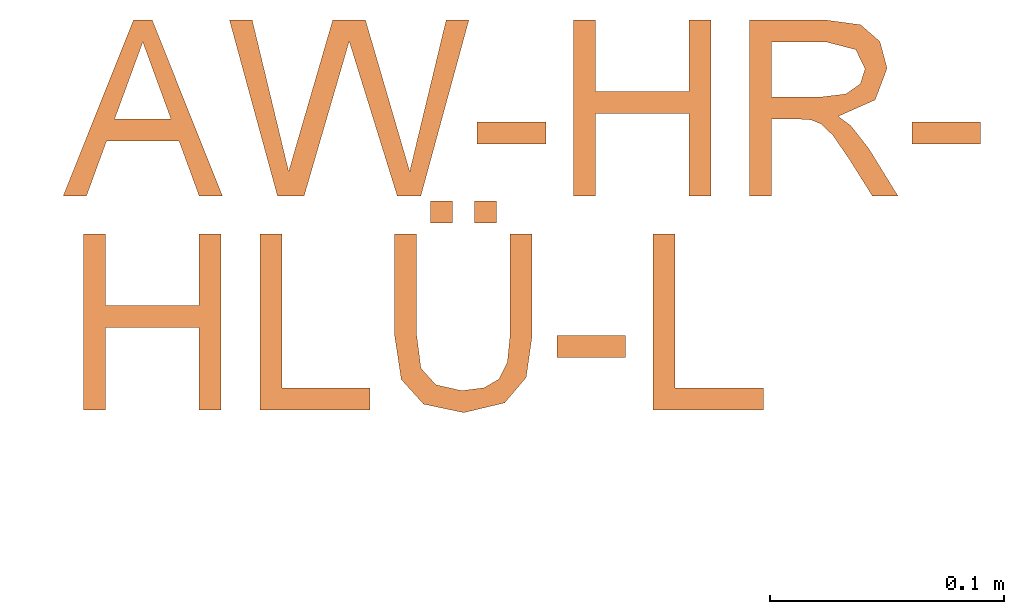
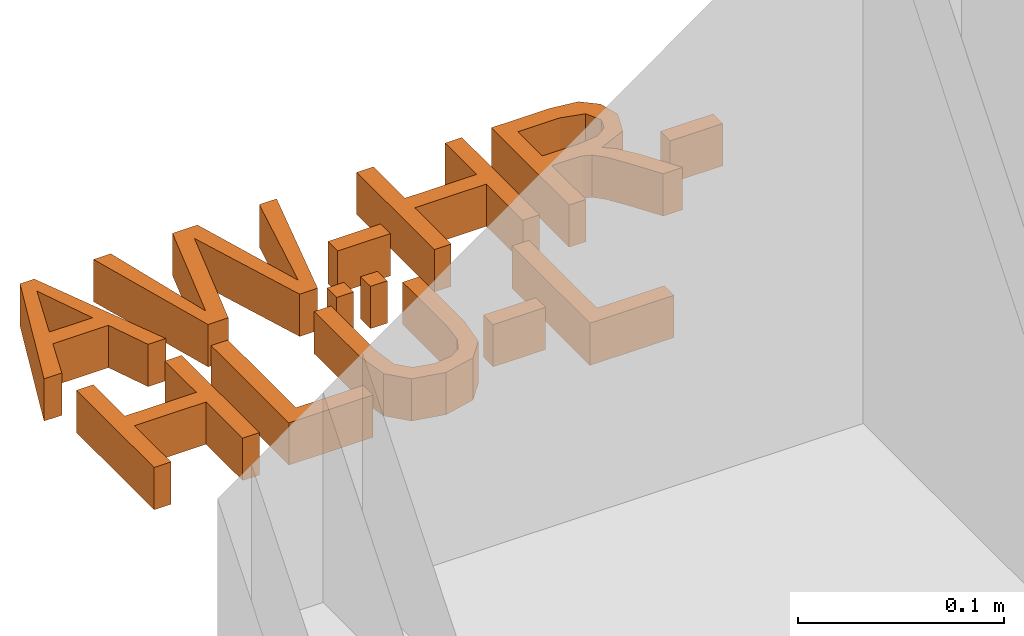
# Not in any storey, part 2 of 2: 1 proxy.
"""IFC4 model written with IfcOpenShell, lengths in metres."""

from ifc_helpers import new_model, entity, si_unit, converted_unit, derived_unit, direction, frame, origin, place, context, subcontext, project, spatial, indexed_curve, outline, extrude, type_object, element, save


model = new_model("IFC4")

# Units and contexts
model_context = context("Model", 3, precision=1e-05, world=origin(), true_north=direction((6.123031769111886e-17, 1.0)))
body_context = subcontext(model_context, "Body", "Model", "MODEL_VIEW")
ifc_project = project(units=[si_unit("LENGTHUNIT", "METRE"), si_unit("AREAUNIT", "SQUARE_METRE"), si_unit("VOLUMEUNIT", "CUBIC_METRE"), converted_unit("PLANEANGLEUNIT", "DEGREE", entity("IfcRatioMeasure", 0.017453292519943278), si_unit("PLANEANGLEUNIT", "RADIAN"), dimensions=[0, 0, 0, 0, 0, 0, 0]), si_unit("MASSUNIT", "GRAM", prefix="KILO"), derived_unit("MASSDENSITYUNIT", [(si_unit("MASSUNIT", "GRAM", prefix="KILO"), 1), (si_unit("LENGTHUNIT", "METRE"), -3)]), derived_unit("IONCONCENTRATIONUNIT", [(si_unit("MASSUNIT", "GRAM", prefix="KILO"), 1), (si_unit("LENGTHUNIT", "METRE"), -3)]), derived_unit("MOMENTOFINERTIAUNIT", [(si_unit("LENGTHUNIT", "METRE"), 4)]), si_unit("TIMEUNIT", "SECOND"), si_unit("FREQUENCYUNIT", "HERTZ"), si_unit("THERMODYNAMICTEMPERATUREUNIT", "DEGREE_CELSIUS"), derived_unit("THERMALTRANSMITTANCEUNIT", [(si_unit("MASSUNIT", "GRAM", prefix="KILO"), 1), (si_unit("THERMODYNAMICTEMPERATUREUNIT", "KELVIN"), -1), (si_unit("TIMEUNIT", "SECOND"), -3)]), derived_unit("THERMALCONDUCTANCEUNIT", [(si_unit("MASSUNIT", "GRAM", prefix="KILO"), 1), (si_unit("THERMODYNAMICTEMPERATUREUNIT", "KELVIN"), -1), (si_unit("TIMEUNIT", "SECOND"), -3), (si_unit("LENGTHUNIT", "METRE"), 1)]), derived_unit("VOLUMETRICFLOWRATEUNIT", [(si_unit("LENGTHUNIT", "METRE"), 3), (si_unit("TIMEUNIT", "SECOND"), -1)]), derived_unit("MASSFLOWRATEUNIT", [(si_unit("MASSUNIT", "GRAM", prefix="KILO"), 1), (si_unit("TIMEUNIT", "SECOND"), -1)]), derived_unit("ROTATIONALFREQUENCYUNIT", [(si_unit("TIMEUNIT", "SECOND"), -1)]), si_unit("ELECTRICCURRENTUNIT", "AMPERE"), si_unit("ELECTRICVOLTAGEUNIT", "VOLT"), si_unit("POWERUNIT", "WATT"), si_unit("FORCEUNIT", "NEWTON", prefix="KILO"), si_unit("ILLUMINANCEUNIT", "LUX"), si_unit("LUMINOUSFLUXUNIT", "LUMEN"), si_unit("LUMINOUSINTENSITYUNIT", "CANDELA"), derived_unit("USERDEFINED", [(si_unit("MASSUNIT", "GRAM", prefix="KILO"), -1), (si_unit("LENGTHUNIT", "METRE"), -2), (si_unit("TIMEUNIT", "SECOND"), 3), (si_unit("LUMINOUSFLUXUNIT", "LUMEN"), 1)]), derived_unit("USERDEFINED", [(si_unit("MASSUNIT", "GRAM", prefix="KILO"), 1), (si_unit("TIMEUNIT", "SECOND"), -3), (si_unit("LENGTHUNIT", "METRE"), 3), (si_unit("ELECTRICCURRENTUNIT", "AMPERE"), -2)]), derived_unit("SOUNDPOWERUNIT", [(si_unit("MASSUNIT", "GRAM", prefix="KILO"), 1), (si_unit("TIMEUNIT", "SECOND"), -3), (si_unit("LENGTHUNIT", "METRE"), 2)]), derived_unit("SOUNDPRESSUREUNIT", [(si_unit("MASSUNIT", "GRAM", prefix="KILO"), 1), (si_unit("LENGTHUNIT", "METRE"), -1), (si_unit("TIMEUNIT", "SECOND"), -2)]), derived_unit("LINEARVELOCITYUNIT", [(si_unit("LENGTHUNIT", "METRE"), 1), (si_unit("TIMEUNIT", "SECOND"), -1)]), si_unit("PRESSUREUNIT", "PASCAL"), derived_unit("USERDEFINED", [(si_unit("MASSUNIT", "GRAM", prefix="KILO"), 1), (si_unit("LENGTHUNIT", "METRE"), -2), (si_unit("TIMEUNIT", "SECOND"), -2)]), derived_unit("LINEARFORCEUNIT", [(si_unit("MASSUNIT", "GRAM", prefix="KILO"), 1), (si_unit("TIMEUNIT", "SECOND"), -2)]), derived_unit("PLANARFORCEUNIT", [(si_unit("MASSUNIT", "GRAM", prefix="KILO"), 1), (si_unit("LENGTHUNIT", "METRE"), -1), (si_unit("TIMEUNIT", "SECOND"), -2)]), derived_unit("SPECIFICHEATCAPACITYUNIT", [(si_unit("THERMODYNAMICTEMPERATUREUNIT", "KELVIN"), -1), (si_unit("LENGTHUNIT", "METRE"), 2), (si_unit("TIMEUNIT", "SECOND"), -2)]), derived_unit("HEATINGVALUEUNIT", [(si_unit("LENGTHUNIT", "METRE"), 2), (si_unit("TIMEUNIT", "SECOND"), -2)]), derived_unit("VAPORPERMEABILITYUNIT", [(si_unit("LENGTHUNIT", "METRE"), -1), (si_unit("TIMEUNIT", "SECOND"), 1)]), derived_unit("DYNAMICVISCOSITYUNIT", [(si_unit("MASSUNIT", "GRAM", prefix="KILO"), 1), (si_unit("TIMEUNIT", "SECOND"), -1), (si_unit("LENGTHUNIT", "METRE"), -1)]), derived_unit("THERMALEXPANSIONCOEFFICIENTUNIT", [(si_unit("THERMODYNAMICTEMPERATUREUNIT", "KELVIN"), -1)]), derived_unit("MODULUSOFELASTICITYUNIT", [(si_unit("MASSUNIT", "GRAM", prefix="KILO"), 1), (si_unit("LENGTHUNIT", "METRE"), -1), (si_unit("TIMEUNIT", "SECOND"), -2)]), derived_unit("ISOTHERMALMOISTURECAPACITYUNIT", [(si_unit("LENGTHUNIT", "METRE"), 3), (si_unit("MASSUNIT", "GRAM", prefix="KILO"), -1)]), derived_unit("MOISTUREDIFFUSIVITYUNIT", [(si_unit("TIMEUNIT", "SECOND"), -1), (si_unit("LENGTHUNIT", "METRE"), 2)])], contexts=[model_context])

# Site
site_placement = place(None, origin())
site = spatial("IfcSite", under=ifc_project, at=site_placement, Name="Default", CompositionType="ELEMENT")

# Proxy
building_element_proxy_type = type_object("IfcBuildingElementProxyType", Name="Modelltext:075mm Arial", PredefinedType="NOTDEFINED")
proxy_placement = place(site_placement, origin())
element("IfcBuildingElementProxy", 1, at=proxy_placement, inside=site, type_object=building_element_proxy_type, Name="Modelltext:075mm Arial", ObjectType="Modelltext:075mm Arial", PredefinedType="NOTDEFINED", context=body_context, shape_type="SweptSolid", body=[
    extrude(outline(indexed_curve([(-0.03408196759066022, -0.02472167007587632), (-0.024130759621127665, -0.02472167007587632), (-0.015522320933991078, -0.0011772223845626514), (0.01550852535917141, -0.0011772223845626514), (0.024135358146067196, -0.02472167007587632), (0.03408656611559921, -0.02472167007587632), (0.004012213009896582, 0.05062056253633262), (-0.004007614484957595, 0.05062056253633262), (-0.03408196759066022, -0.02472167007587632)], self_intersect=False), holes=[indexed_curve([(-0.012064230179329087, 0.008240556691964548), (-0.004688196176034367, 0.0283820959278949), (2.2992624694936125e-06, 0.041202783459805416), (0.005281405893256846, 0.026763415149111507), (0.012068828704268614, 0.008240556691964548), (-0.012064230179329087, 0.008240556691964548)], self_intersect=False)]), frame((3.275343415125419, 47.87914607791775, 0.0)), (0.0, 0.0, 1.0), 0.025),
    extrude(outline(indexed_curve([(-0.030486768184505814, -0.04038957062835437), (-0.019119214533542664, -0.04038957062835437), (-0.0026564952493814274, 0.01608031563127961), (0.0001761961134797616, 0.025847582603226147), (0.0026961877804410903, 0.0177357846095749), (0.02075919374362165, -0.04038957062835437), (0.030820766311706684, -0.04038957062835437), (0.05138536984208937, 0.03495266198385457), (0.04167328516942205, 0.03495266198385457), (0.029643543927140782, -0.01500571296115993), (0.026075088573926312, -0.029849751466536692), (0.018000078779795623, -0.002221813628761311), (0.007147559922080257, 0.03495266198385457), (-0.006850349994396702, 0.03495266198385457), (-0.021786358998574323, -0.016330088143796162), (-0.025722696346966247, -0.029849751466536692), (-0.02940151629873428, -0.014564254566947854), (-0.04132089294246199, 0.03495266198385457), (-0.05103297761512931, 0.03495266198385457), (-0.030486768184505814, -0.04038957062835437)], self_intersect=False)), frame((3.3634611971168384, 47.89481397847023, 0.0)), (0.0, 0.0, 1.0), 0.025),
    extrude(outline(indexed_curve([(-0.014715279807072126, -0.004708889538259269), (0.014715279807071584, -0.004708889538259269), (0.014715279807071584, 0.004708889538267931), (-0.014715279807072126, 0.004708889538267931), (-0.014715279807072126, -0.004708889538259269)], self_intersect=False)), frame((3.433093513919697, 47.881500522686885, 0.0)), (0.0, 0.0, 1.0), 0.025),
    extrude(outline(indexed_curve([(-0.02943055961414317, -0.038455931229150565), (-0.020012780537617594, -0.038455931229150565), (-0.020012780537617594, -0.003139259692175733), (0.020012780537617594, -0.003139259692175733), (0.020012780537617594, -0.038455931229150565), (0.02943055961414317, -0.038455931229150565), (0.02943055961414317, 0.036886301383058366), (0.020012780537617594, 0.036886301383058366), (0.020012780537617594, 0.006278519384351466), (-0.020012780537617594, 0.006278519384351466), (-0.020012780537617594, 0.036886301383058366), (-0.02943055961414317, 0.036886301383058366), (-0.02943055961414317, -0.038455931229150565)], self_intersect=False)), frame((3.4890115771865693, 47.89288033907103, 0.0)), (0.0, 0.0, 1.0), 0.025),
    extrude(outline(indexed_curve([(-0.035363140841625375, -0.0337691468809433), (-0.02594536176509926, -0.0337691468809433), (-0.02594536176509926, -0.0008069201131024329), (-0.014577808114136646, -0.0008069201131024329), (-0.00911476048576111, -0.0011380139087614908), (-0.0046357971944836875, -0.00293143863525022), (0.00033980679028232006, -0.007815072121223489), (0.007421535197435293, -0.01815255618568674), (0.017225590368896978, -0.0337691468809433), (0.028170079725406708, -0.0337691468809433), (0.015606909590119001, -0.013351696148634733), (0.00797335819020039, -0.003658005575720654), (0.002620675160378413, 0.00037030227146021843), (0.018393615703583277, 0.007378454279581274), (0.023497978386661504, 0.020953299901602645), (0.02041696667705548, 0.032348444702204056), (0.012176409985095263, 0.039540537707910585), (-0.002897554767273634, 0.041573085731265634), (-0.035363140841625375, 0.041573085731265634), (-0.035363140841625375, -0.0337691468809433)], self_intersect=False), holes=[indexed_curve([(-0.02594536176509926, 0.008610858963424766), (-0.02594536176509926, 0.03215530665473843), (-0.002492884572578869, 0.03215530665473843), (0.010097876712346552, 0.028899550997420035), (0.014080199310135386, 0.020603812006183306), (0.011992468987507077, 0.01421186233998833), (0.00588562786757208, 0.009944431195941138), (-0.004865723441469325, 0.008610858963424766), (-0.02594536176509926, 0.008610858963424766)], self_intersect=False)]), frame((3.5702863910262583, 47.88819355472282, 0.0)), (0.0, 0.0, 1.0), 0.025),
    extrude(outline(indexed_curve([(-0.014715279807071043, -0.004708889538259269), (0.014715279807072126, -0.004708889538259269), (0.014715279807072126, 0.004708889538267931), (-0.014715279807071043, 0.004708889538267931), (-0.014715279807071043, -0.004708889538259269)], self_intersect=False)), frame((3.6190946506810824, 47.881500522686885, 0.0)), (0.0, 0.0, 1.0), 0.025),
    extrude(outline(indexed_curve([(-0.02943055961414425, -0.038455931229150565), (-0.020012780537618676, -0.038455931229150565), (-0.020012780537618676, -0.003139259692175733), (0.02001278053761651, -0.003139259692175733), (0.02001278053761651, -0.038455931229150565), (0.029430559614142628, -0.038455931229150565), (0.029430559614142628, 0.036886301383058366), (0.02001278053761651, 0.036886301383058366), (0.02001278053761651, 0.006278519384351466), (-0.020012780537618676, 0.006278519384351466), (-0.020012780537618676, 0.036886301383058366), (-0.02943055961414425, 0.036886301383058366), (-0.02943055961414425, -0.038455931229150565)], self_intersect=False)), frame((3.2794659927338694, 47.801399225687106, 0.0)), (0.0, 0.0, 1.0), 0.025),
    extrude(outline(indexed_curve([(-0.018835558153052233, -0.028253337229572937), (0.028253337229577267, -0.028253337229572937), (0.028253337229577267, -0.018835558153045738), (-0.009417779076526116, -0.018835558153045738), (-0.009417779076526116, 0.047088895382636), (-0.018835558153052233, 0.047088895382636), (-0.018835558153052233, -0.028253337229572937)], self_intersect=False)), frame((3.344213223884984, 47.79119663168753, 0.0)), (0.0, 0.0, 1.0), 0.025),
    extrude(outline(indexed_curve([(-0.004708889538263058, -0.004708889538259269), (0.004708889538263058, -0.004708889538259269), (0.004708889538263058, 0.004708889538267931), (-0.004708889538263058, 0.004708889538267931), (-0.004708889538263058, -0.004708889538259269)], self_intersect=False)), frame((3.4030743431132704, 47.847703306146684, 0.0)), (0.0, 0.0, 1.0), 0.025),
    extrude(outline(indexed_curve([(-0.046888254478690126, -0.019305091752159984), (-0.046888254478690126, -0.028722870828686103), (-0.003422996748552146, -0.028722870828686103), (0.014594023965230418, -0.026166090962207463), (0.02544654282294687, -0.016950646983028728), (0.02963120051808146, 0.0005237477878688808), (0.025989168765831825, 0.01773142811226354), (0.015440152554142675, 0.02727796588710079), (-0.003422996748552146, 0.030138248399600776), (-0.046888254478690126, 0.030138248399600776), (-0.046888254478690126, 0.02072046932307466), (-0.0037540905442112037, 0.02072046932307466), (0.010602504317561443, 0.018862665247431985), (0.017711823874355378, 0.012479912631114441), (0.02021342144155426, 0.001406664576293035), (0.01897641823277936, -0.00817206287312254), (0.015265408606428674, -0.01454101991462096), (0.008036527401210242, -0.0181140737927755), (-0.0037540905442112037, -0.019305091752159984), (-0.046888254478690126, -0.019305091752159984)], self_intersect=False)), frame((3.4131998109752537, 47.791397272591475, 0.0), z_axis=(0.0, 0.0, -1.0), x_axis=(0.0, -1.0, 0.0)), (0.0, 0.0, -1.0), 0.025),
    extrude(outline(indexed_curve([(-0.004708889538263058, -0.004708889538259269), (0.004708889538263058, -0.004708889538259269), (0.004708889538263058, 0.004708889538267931), (-0.004708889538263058, 0.004708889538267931), (-0.004708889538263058, -0.004708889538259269)], self_intersect=False)), frame((3.4219099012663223, 47.847703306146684, 0.0)), (0.0, 0.0, 1.0), 0.025),
    extrude(outline(indexed_curve([(-0.014715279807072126, -0.004708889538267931), (0.014715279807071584, -0.004708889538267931), (0.014715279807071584, 0.004708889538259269), (-0.014715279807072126, 0.004708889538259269), (-0.014715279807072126, -0.004708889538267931)], self_intersect=False)), frame((3.4672329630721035, 47.79001940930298, 0.0)), (0.0, 0.0, 1.0), 0.025),
    extrude(outline(indexed_curve([(-0.01883555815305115, -0.028253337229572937), (0.028253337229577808, -0.028253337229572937), (0.028253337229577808, -0.018835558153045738), (-0.009417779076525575, -0.018835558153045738), (-0.009417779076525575, 0.047088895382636), (-0.01883555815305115, 0.047088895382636), (-0.01883555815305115, -0.028253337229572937)], self_intersect=False)), frame((3.5125560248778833, 47.79119663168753, 0.0)), (0.0, 0.0, 1.0), 0.025),
])

save(model, "model.ifc")
